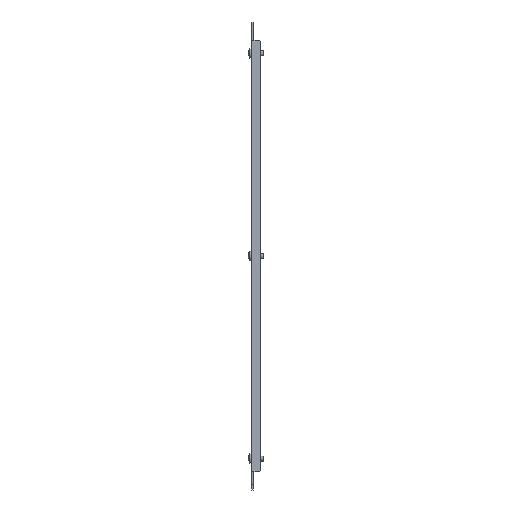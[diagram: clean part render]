
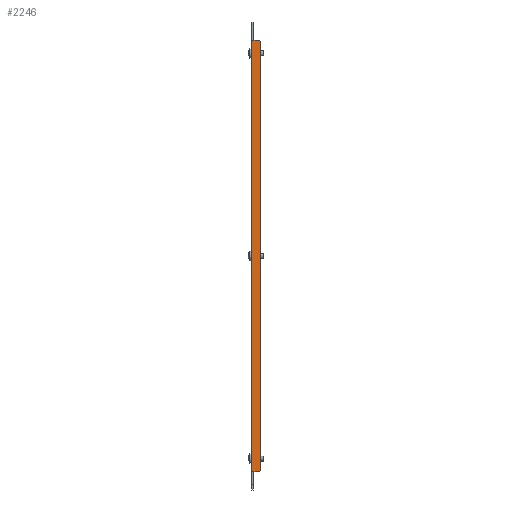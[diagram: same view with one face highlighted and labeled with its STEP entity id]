
A CAD part, left-side view. The second image highlights one B-rep face of the part: STEP entity #2246.
In plain terms, the highlighted planar face has unit normal (-1, 0, 0) as drawn and (1, 0, 0) by its records, which use the part's own axes.
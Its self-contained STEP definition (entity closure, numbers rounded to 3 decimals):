
#1 = DIRECTION ( 'NONE',  ( 0., 0., 1. ) ) ;
#12 = LINE ( 'NONE', #492, #2509 ) ;
#140 = DIRECTION ( 'NONE',  ( 0., 0., 1. ) ) ;
#181 = VERTEX_POINT ( 'NONE', #1949 ) ;
#187 = LINE ( 'NONE', #2564, #2423 ) ;
#201 = LINE ( 'NONE', #1123, #2946 ) ;
#221 = LINE ( 'NONE', #885, #1081 ) ;
#407 = DIRECTION ( 'NONE',  ( -1., 0., 0. ) ) ;
#425 = DIRECTION ( 'NONE',  ( 0., 0.707, -0.707 ) ) ;
#459 = VECTOR ( 'NONE', #1079, 1000. ) ;
#478 = CARTESIAN_POINT ( 'NONE',  ( 84., -213., 0. ) ) ;
#492 = CARTESIAN_POINT ( 'NONE',  ( 84., 213., 0. ) ) ;
#494 = ORIENTED_EDGE ( 'NONE', *, *, #925, .T. ) ;
#632 = LINE ( 'NONE', #1490, #459 ) ;
#725 = ORIENTED_EDGE ( 'NONE', *, *, #2458, .T. ) ;
#744 = DIRECTION ( 'NONE',  ( 0., 0., -1. ) ) ;
#812 = EDGE_CURVE ( 'NONE', #2349, #2364, #632, .T. ) ;
#885 = CARTESIAN_POINT ( 'NONE',  ( 84., 0., 0. ) ) ;
#925 = EDGE_CURVE ( 'NONE', #1800, #181, #221, .T. ) ;
#973 = LINE ( 'NONE', #2390, #3000 ) ;
#992 = DIRECTION ( 'NONE',  ( 0., 0.707, 0.707 ) ) ;
#996 = EDGE_CURVE ( 'NONE', #2473, #181, #201, .T. ) ;
#1041 = CARTESIAN_POINT ( 'NONE',  ( 84., 212., -9. ) ) ;
#1079 = DIRECTION ( 'NONE',  ( 0., 1., 0. ) ) ;
#1081 = VECTOR ( 'NONE', #1154, 1000. ) ;
#1083 = EDGE_CURVE ( 'NONE', #2364, #2468, #2854, .T. ) ;
#1086 = AXIS2_PLACEMENT_3D ( 'NONE', #1561, #407, #140 ) ;
#1093 = EDGE_LOOP ( 'NONE', ( #2000, #2096, #2582, #2380, #494, #1732, #1469, #725 ) ) ;
#1123 = CARTESIAN_POINT ( 'NONE',  ( 84., -213., 0. ) ) ;
#1154 = DIRECTION ( 'NONE',  ( 0., -1., 0. ) ) ;
#1200 = VERTEX_POINT ( 'NONE', #2588 ) ;
#1206 = DIRECTION ( 'NONE',  ( 0., 0., 1. ) ) ;
#1230 = EDGE_CURVE ( 'NONE', #2468, #1200, #12, .T. ) ;
#1247 = EDGE_CURVE ( 'NONE', #1200, #1800, #973, .T. ) ;
#1469 = ORIENTED_EDGE ( 'NONE', *, *, #1723, .T. ) ;
#1490 = CARTESIAN_POINT ( 'NONE',  ( 84., 0., -9. ) ) ;
#1561 = CARTESIAN_POINT ( 'NONE',  ( 84., 0., 0. ) ) ;
#1632 = LINE ( 'NONE', #478, #2210 ) ;
#1664 = CARTESIAN_POINT ( 'NONE',  ( 84., 213., 0. ) ) ;
#1667 = CARTESIAN_POINT ( 'NONE',  ( 84., -213., -8. ) ) ;
#1697 = DIRECTION ( 'NONE',  ( 0., 0., 1. ) ) ;
#1723 = EDGE_CURVE ( 'NONE', #2473, #2870, #1632, .T. ) ;
#1732 = ORIENTED_EDGE ( 'NONE', *, *, #996, .F. ) ;
#1800 = VERTEX_POINT ( 'NONE', #1664 ) ;
#1949 = CARTESIAN_POINT ( 'NONE',  ( 84., -213., 0. ) ) ;
#2000 = ORIENTED_EDGE ( 'NONE', *, *, #812, .T. ) ;
#2067 = CARTESIAN_POINT ( 'NONE',  ( 84., -213., -2.1 ) ) ;
#2096 = ORIENTED_EDGE ( 'NONE', *, *, #1083, .T. ) ;
#2170 = CARTESIAN_POINT ( 'NONE',  ( 84., 213., -8. ) ) ;
#2210 = VECTOR ( 'NONE', #744, 1000. ) ;
#2246 = ADVANCED_FACE ( 'NONE', ( #2263 ), #2474, .F. ) ;
#2263 = FACE_OUTER_BOUND ( 'NONE', #1093, .T. ) ;
#2316 = CARTESIAN_POINT ( 'NONE',  ( 84., 213., -8. ) ) ;
#2349 = VERTEX_POINT ( 'NONE', #2959 ) ;
#2364 = VERTEX_POINT ( 'NONE', #1041 ) ;
#2380 = ORIENTED_EDGE ( 'NONE', *, *, #1247, .T. ) ;
#2390 = CARTESIAN_POINT ( 'NONE',  ( 84., 213., -2.1 ) ) ;
#2423 = VECTOR ( 'NONE', #425, 1000. ) ;
#2458 = EDGE_CURVE ( 'NONE', #2870, #2349, #187, .T. ) ;
#2468 = VERTEX_POINT ( 'NONE', #2316 ) ;
#2473 = VERTEX_POINT ( 'NONE', #2067 ) ;
#2474 = PLANE ( 'NONE',  #1086 ) ;
#2509 = VECTOR ( 'NONE', #1206, 1000. ) ;
#2564 = CARTESIAN_POINT ( 'NONE',  ( 84., -212., -9. ) ) ;
#2582 = ORIENTED_EDGE ( 'NONE', *, *, #1230, .T. ) ;
#2588 = CARTESIAN_POINT ( 'NONE',  ( 84., 213., -2.1 ) ) ;
#2752 = VECTOR ( 'NONE', #992, 1000. ) ;
#2854 = LINE ( 'NONE', #2170, #2752 ) ;
#2870 = VERTEX_POINT ( 'NONE', #1667 ) ;
#2946 = VECTOR ( 'NONE', #1, 1000. ) ;
#2959 = CARTESIAN_POINT ( 'NONE',  ( 84., -212., -9. ) ) ;
#3000 = VECTOR ( 'NONE', #1697, 1000. ) ;
